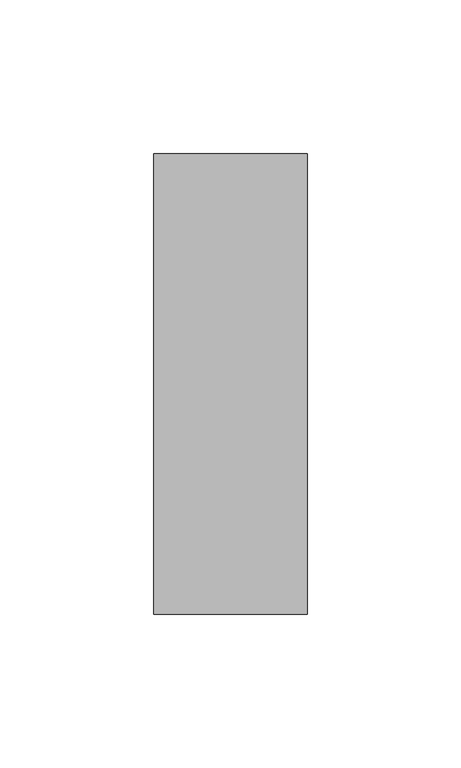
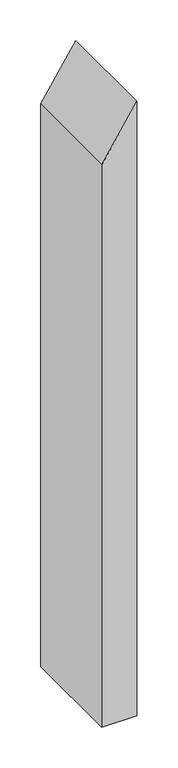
"""IFC4 building model written with IfcOpenShell, lengths in millimetres: member geometry, Прямоугольный импост : 50 x 150 мм."""

from ifc_helpers import new_model, si_unit, frame, origin, place, context, project, spatial, polyline, outline, extrude, source, transform, mapped, element, save


def member_5e2279b8(model_context):
    return source(origin(), model_context, "Body", "SweptSolid", [
        extrude(outline(polyline([(0.0, 0.0), (-77.5404019, -50.0), (-922.1659322, -50.0), (-922.1659322, 0.0), (0.0, 0.0)])), frame((0.0, -75.0, 0.0), z_axis=(0.0, 1.0, 0.0), x_axis=(0.0, 0.0, 1.0)), (0.0, 0.0, 1.0), 150.0),
    ])


if __name__ == "__main__":
    model = new_model("IFC4")
    model_context = context("Model", 3, world=origin())
    ifc_project = project(units=[si_unit("LENGTHUNIT", "METRE", prefix="MILLI")], contexts=[model_context])
    site = spatial("IfcSite", under=ifc_project)
    building = spatial("IfcBuilding", under=site)
    placement = place(None, origin())
    member_shape = member_5e2279b8(model_context)
    element("IfcMember", 1, ObjectType="Прямоугольный импост : 50 x 150 мм", at=placement, inside=building, context=model_context, shape_type="MappedRepresentation", body=[
        mapped(member_shape, transform((0.0, 0.0, 0.0), x_axis=(1.0, 0.0, 0.0), y_axis=(0.0, 1.0, 0.0), z_axis=(0.0, 0.0, 1.0))),
    ])
    save(model, "model.ifc")
